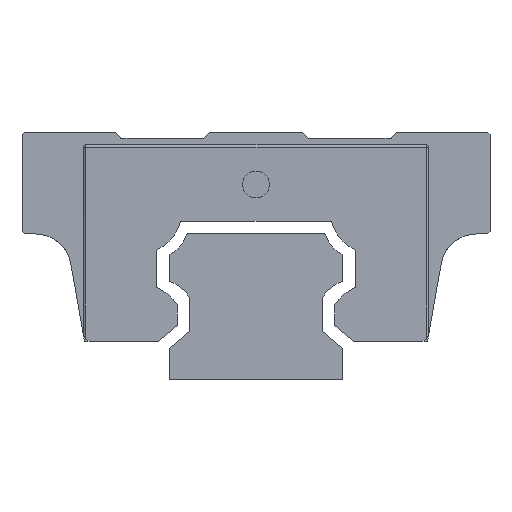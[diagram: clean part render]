
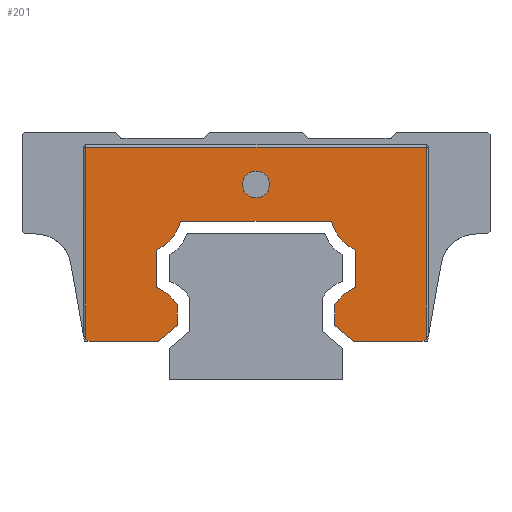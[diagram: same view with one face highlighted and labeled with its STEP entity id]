
A CAD part, left-side view. The second image highlights one B-rep face of the part: STEP entity #201.
In plain terms, the highlighted planar face has unit normal (-1, 0, 0).
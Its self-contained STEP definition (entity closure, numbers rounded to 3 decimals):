
#47=FACE_BOUND('',#512,.T.);
#48=FACE_BOUND('',#513,.T.);
#201=ADVANCED_FACE('',(#47,#48),#329,.T.);
#329=PLANE('',#2310);
#512=EDGE_LOOP('',(#1177));
#513=EDGE_LOOP('',(#1178,#1179,#1180,#1181,#1182,#1183,#1184,#1185,#1186,
#1187,#1188,#1189,#1190,#1191,#1192,#1193,#1194,#1195));
#676=LINE('',#3196,#880);
#682=LINE('',#3212,#886);
#685=LINE('',#3218,#889);
#692=LINE('',#3232,#896);
#693=LINE('',#3242,#897);
#706=LINE('',#3269,#910);
#715=LINE('',#3289,#919);
#718=LINE('',#3295,#922);
#723=LINE('',#3304,#927);
#731=LINE('',#3321,#935);
#738=LINE('',#3336,#942);
#739=LINE('',#3340,#943);
#740=LINE('',#3342,#944);
#741=LINE('',#3344,#945);
#880=VECTOR('',#2533,1.);
#886=VECTOR('',#2547,1.);
#889=VECTOR('',#2552,1.);
#896=VECTOR('',#2561,1.);
#897=VECTOR('',#2566,1.);
#910=VECTOR('',#2587,1.);
#919=VECTOR('',#2600,1.);
#922=VECTOR('',#2605,1.);
#927=VECTOR('',#2612,1.);
#935=VECTOR('',#2626,1.);
#942=VECTOR('',#2639,1.);
#943=VECTOR('',#2644,1.);
#944=VECTOR('',#2645,1.);
#945=VECTOR('',#2646,1.);
#1177=ORIENTED_EDGE('',*,*,#1968,.F.);
#1178=ORIENTED_EDGE('',*,*,#1919,.T.);
#1179=ORIENTED_EDGE('',*,*,#1969,.T.);
#1180=ORIENTED_EDGE('',*,*,#1970,.T.);
#1181=ORIENTED_EDGE('',*,*,#1971,.T.);
#1182=ORIENTED_EDGE('',*,*,#1932,.T.);
#1183=ORIENTED_EDGE('',*,*,#1942,.T.);
#1184=ORIENTED_EDGE('',*,*,#1945,.T.);
#1185=ORIENTED_EDGE('',*,*,#1950,.T.);
#1186=ORIENTED_EDGE('',*,*,#1952,.T.);
#1187=ORIENTED_EDGE('',*,*,#1959,.T.);
#1188=ORIENTED_EDGE('',*,*,#1961,.T.);
#1189=ORIENTED_EDGE('',*,*,#1967,.T.);
#1190=ORIENTED_EDGE('',*,*,#1890,.T.);
#1191=ORIENTED_EDGE('',*,*,#1898,.T.);
#1192=ORIENTED_EDGE('',*,*,#1901,.T.);
#1193=ORIENTED_EDGE('',*,*,#1906,.T.);
#1194=ORIENTED_EDGE('',*,*,#1909,.T.);
#1195=ORIENTED_EDGE('',*,*,#1916,.T.);
#1687=VERTEX_POINT('',#3179);
#1688=VERTEX_POINT('',#3181);
#1694=VERTEX_POINT('',#3195);
#1696=VERTEX_POINT('',#3201);
#1700=VERTEX_POINT('',#3211);
#1702=VERTEX_POINT('',#3217);
#1708=VERTEX_POINT('',#3231);
#1711=VERTEX_POINT('',#3241);
#1722=VERTEX_POINT('',#3270);
#1723=VERTEX_POINT('',#3271);
#1730=VERTEX_POINT('',#3288);
#1732=VERTEX_POINT('',#3294);
#1735=VERTEX_POINT('',#3303);
#1736=VERTEX_POINT('',#3307);
#1741=VERTEX_POINT('',#3320);
#1742=VERTEX_POINT('',#3324);
#1747=VERTEX_POINT('',#3339);
#1748=VERTEX_POINT('',#3341);
#1749=VERTEX_POINT('',#3343);
#1890=EDGE_CURVE('',#1688,#1687,#2190,.T.);
#1898=EDGE_CURVE('',#1687,#1694,#676,.T.);
#1901=EDGE_CURVE('',#1694,#1696,#2192,.T.);
#1906=EDGE_CURVE('',#1696,#1700,#682,.T.);
#1909=EDGE_CURVE('',#1700,#1702,#685,.T.);
#1916=EDGE_CURVE('',#1702,#1708,#692,.T.);
#1919=EDGE_CURVE('',#1708,#1711,#693,.T.);
#1932=EDGE_CURVE('',#1722,#1723,#706,.T.);
#1942=EDGE_CURVE('',#1723,#1730,#715,.T.);
#1945=EDGE_CURVE('',#1730,#1732,#718,.T.);
#1950=EDGE_CURVE('',#1732,#1735,#723,.T.);
#1952=EDGE_CURVE('',#1735,#1736,#2193,.T.);
#1959=EDGE_CURVE('',#1736,#1741,#731,.T.);
#1961=EDGE_CURVE('',#1741,#1742,#2194,.T.);
#1967=EDGE_CURVE('',#1742,#1688,#738,.T.);
#1968=EDGE_CURVE('',#1747,#1747,#2195,.T.);
#1969=EDGE_CURVE('',#1711,#1748,#739,.T.);
#1970=EDGE_CURVE('',#1748,#1749,#740,.T.);
#1971=EDGE_CURVE('',#1749,#1722,#741,.T.);
#2190=CIRCLE('',#2284,16.525);
#2192=CIRCLE('',#2288,16.525);
#2193=CIRCLE('',#2303,16.525);
#2194=CIRCLE('',#2306,16.525);
#2195=CIRCLE('',#2309,4.864);
#2284=AXIS2_PLACEMENT_3D('',#3180,#2522,#2523);
#2288=AXIS2_PLACEMENT_3D('',#3202,#2539,#2540);
#2303=AXIS2_PLACEMENT_3D('',#3308,#2616,#2617);
#2306=AXIS2_PLACEMENT_3D('',#3325,#2630,#2631);
#2309=AXIS2_PLACEMENT_3D('',#3338,#2642,#2643);
#2310=AXIS2_PLACEMENT_3D('',#3345,#2647,#2648);
#2522=DIRECTION('',(-1.,0.,0.));
#2523=DIRECTION('',(0.,1.,0.));
#2533=DIRECTION('',(0.,0.,-1.));
#2539=DIRECTION('',(-1.,0.,0.));
#2540=DIRECTION('',(0.,1.,0.));
#2547=DIRECTION('',(0.,0.,-1.));
#2552=DIRECTION('',(0.,-0.766,-0.643));
#2561=DIRECTION('',(0.,-1.,0.));
#2566=DIRECTION('',(0.,-0.707,0.707));
#2587=DIRECTION('',(0.,-0.707,-0.707));
#2600=DIRECTION('',(0.,-1.,0.));
#2605=DIRECTION('',(0.,-0.766,0.643));
#2612=DIRECTION('',(0.,0.,1.));
#2616=DIRECTION('',(-1.,0.,0.));
#2617=DIRECTION('',(0.,-1.,0.));
#2626=DIRECTION('',(0.,0.,1.));
#2630=DIRECTION('',(-1.,0.,0.));
#2631=DIRECTION('',(0.,-1.,0.));
#2639=DIRECTION('',(0.,-1.,0.));
#2642=DIRECTION('',(-1.,0.,0.));
#2643=DIRECTION('',(0.,1.,0.));
#2644=DIRECTION('',(0.,0.,1.));
#2645=DIRECTION('',(0.,1.,0.));
#2646=DIRECTION('',(0.,0.,-1.));
#2647=DIRECTION('',(-1.,0.,0.));
#2648=DIRECTION('',(0.,0.,1.));
#3179=CARTESIAN_POINT('',(-128.25,-36.125,47.175));
#3180=CARTESIAN_POINT('',(-128.25,-43.271,62.075));
#3181=CARTESIAN_POINT('',(-128.25,-27.357,57.625));
#3195=CARTESIAN_POINT('',(-128.25,-36.125,33.588));
#3196=CARTESIAN_POINT('',(-128.25,-36.125,47.175));
#3201=CARTESIAN_POINT('',(-128.25,-28.617,27.288));
#3202=CARTESIAN_POINT('',(-128.25,-42.515,18.348));
#3211=CARTESIAN_POINT('',(-128.25,-28.617,19.823));
#3212=CARTESIAN_POINT('',(-128.25,-28.617,27.288));
#3217=CARTESIAN_POINT('',(-128.25,-35.557,14.));
#3218=CARTESIAN_POINT('',(-128.25,-28.617,19.823));
#3231=CARTESIAN_POINT('',(-128.25,-60.654,14.));
#3232=CARTESIAN_POINT('',(-128.25,-35.557,14.));
#3241=CARTESIAN_POINT('',(-128.25,-61.81,15.156));
#3242=CARTESIAN_POINT('',(-128.25,-60.654,14.));
#3269=CARTESIAN_POINT('',(-128.25,62.66,16.));
#3270=CARTESIAN_POINT('',(-128.25,61.81,15.15));
#3271=CARTESIAN_POINT('',(-128.25,60.66,14.));
#3288=CARTESIAN_POINT('',(-128.25,35.557,14.));
#3289=CARTESIAN_POINT('',(-128.25,60.66,14.));
#3294=CARTESIAN_POINT('',(-128.25,28.617,19.823));
#3295=CARTESIAN_POINT('',(-128.25,35.557,14.));
#3303=CARTESIAN_POINT('',(-128.25,28.617,27.288));
#3304=CARTESIAN_POINT('',(-128.25,28.617,19.823));
#3307=CARTESIAN_POINT('',(-128.25,36.125,33.588));
#3308=CARTESIAN_POINT('',(-128.25,42.515,18.348));
#3320=CARTESIAN_POINT('',(-128.25,36.125,47.175));
#3321=CARTESIAN_POINT('',(-128.25,36.125,33.588));
#3324=CARTESIAN_POINT('',(-128.25,27.357,57.625));
#3325=CARTESIAN_POINT('',(-128.25,43.271,62.075));
#3336=CARTESIAN_POINT('',(-128.25,27.357,57.625));
#3338=CARTESIAN_POINT('',(-128.25,0.,71.));
#3339=CARTESIAN_POINT('',(-128.25,4.864,71.));
#3340=CARTESIAN_POINT('',(-128.25,-61.81,85.375));
#3341=CARTESIAN_POINT('',(-128.25,-61.81,84.525));
#3342=CARTESIAN_POINT('',(-128.25,62.66,84.525));
#3343=CARTESIAN_POINT('',(-128.25,61.81,84.525));
#3344=CARTESIAN_POINT('',(-128.25,61.81,16.));
#3345=CARTESIAN_POINT('',(-128.25,-43.271,62.075));
